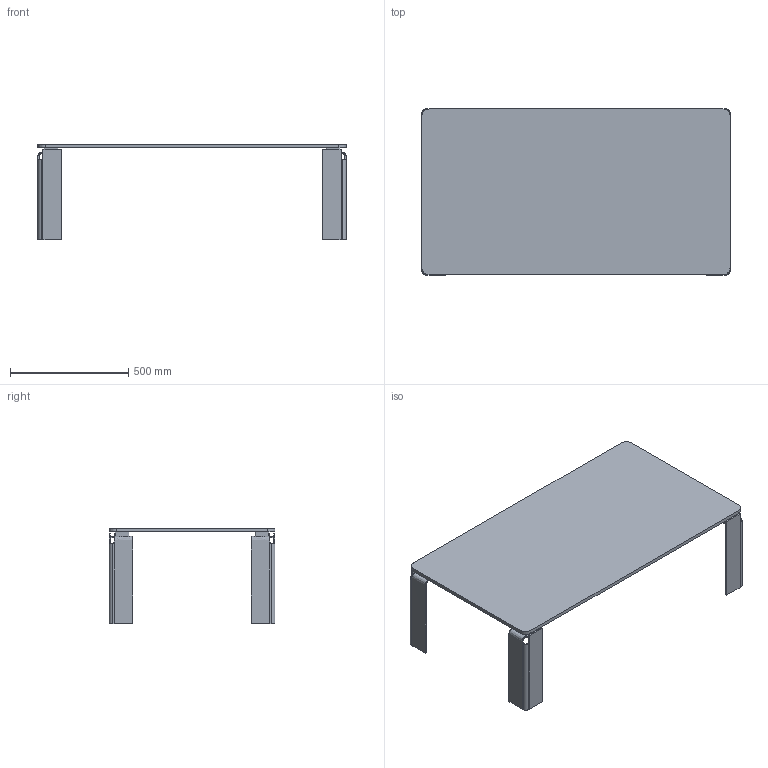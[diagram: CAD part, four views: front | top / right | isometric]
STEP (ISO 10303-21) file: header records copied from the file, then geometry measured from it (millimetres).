
FILE_DESCRIPTION(/* description */ (''),/* implementation_level */ '2;1');
FILE_NAME(/* name */ '104AC - Newton 130x70 H40 acciaio',/* time_stamp */ '2012-06-20T15:01:03+02:00',/* author */ (''),/* organization */ (''),/* preprocessor_version */ 'ST-DEVELOPER v10',/* originating_system */ '',/* authorisation */ '');
FILE_SCHEMA (('CONFIG_CONTROL_DESIGN'));
Length unit declared in the file: millimetre
Products named in the file (1): 1
Bounding box: 1300 x 700 x 402 mm (x, y, z)
Volume: 15726605.8 mm3; surface area: 2574721 mm2
Topology: 9 solids, 9 shells, 158 faces, 396 edges, 248 vertices
Faces by surface type: bspline 92, plane 66
Entity records: 5144 total; most frequent: CARTESIAN_POINT 2636, ORIENTED_EDGE 792, EDGE_CURVE 396, VERTEX_POINT 248, B_SPLINE_CURVE_WITH_KNOTS 212, EDGE_LOOP 190, ADVANCED_FACE 158, FACE_OUTER_BOUND 158
